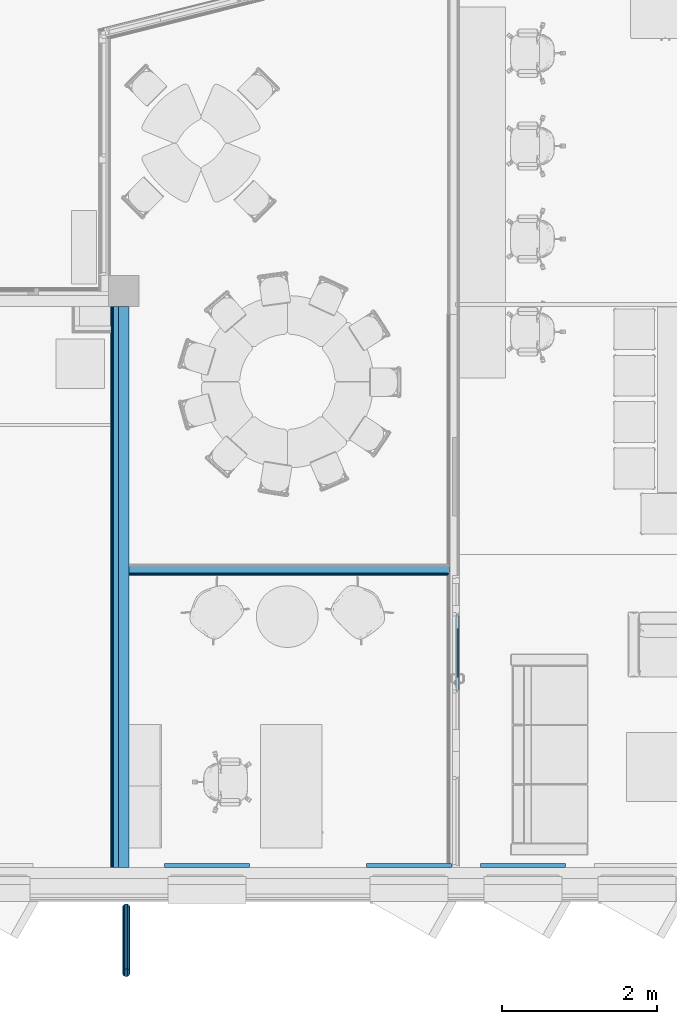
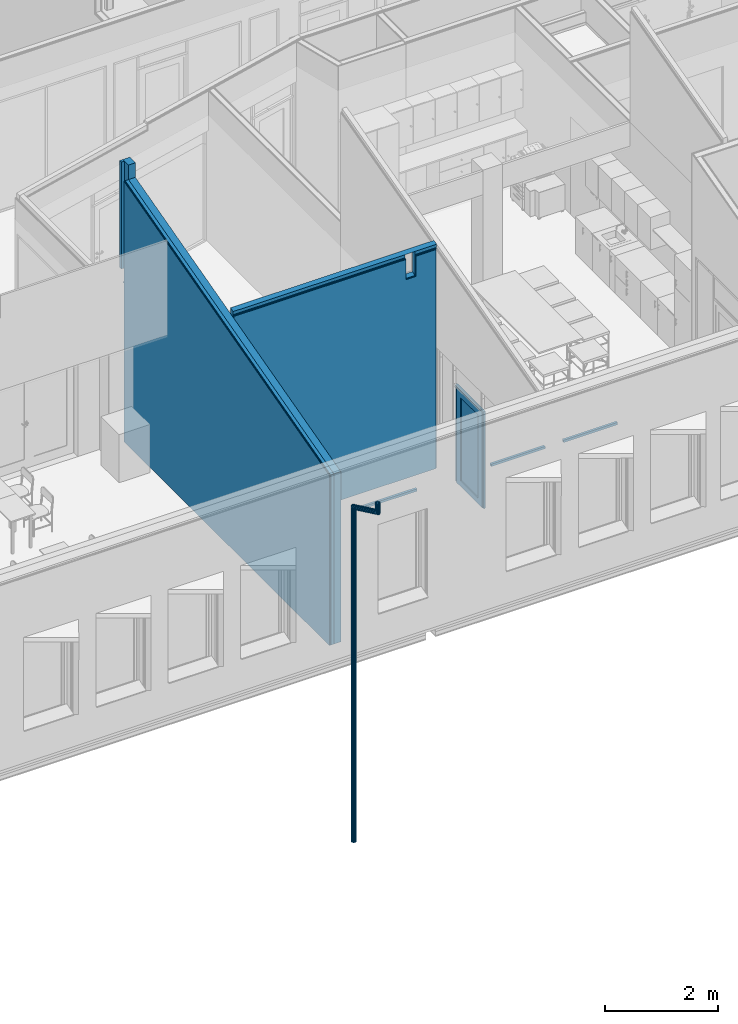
# One storey, part 67 of 153: 9 building element parts, 4 discrete accessories, 4 elements without a shape of their own.
"""IFC2X3 building model written with IfcOpenShell, lengths in millimetres."""

from ifc_helpers import new_model, entity, si_unit, converted_unit, derived_unit, money_unit, direction, frame, origin_with_axes, place, context, subcontext, project, spatial, open_shell, faceted_brep, surface_model, material, type_object, element, aggregate, save


model = new_model("IFC2X3")

# Units and contexts
model_context = context("Model", 3, precision=0.01, world=origin_with_axes(), true_north=direction((0.0, 1.0)))
body_context = subcontext(model_context, "Body", "Model", "MODEL_VIEW")
ifc_project = project(units=[si_unit("LENGTHUNIT", "METRE", prefix="MILLI"), si_unit("AREAUNIT", "SQUARE_METRE"), si_unit("VOLUMEUNIT", "CUBIC_METRE"), converted_unit("PLANEANGLEUNIT", "DEGREE", entity("IfcPlaneAngleMeasure", 0.0174532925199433), si_unit("PLANEANGLEUNIT", "RADIAN"), dimensions=[0, 0, 0, 0, 0, 0, 0]), money_unit("EUR"), converted_unit("TIMEUNIT", "Year", entity("IfcTimeMeasure", 31557600.0), si_unit("TIMEUNIT", "SECOND"), dimensions=[0, 0, 1, 0, 0, 0, 0]), si_unit("MASSUNIT", "GRAM", prefix="KILO"), si_unit("THERMODYNAMICTEMPERATUREUNIT", "DEGREE_CELSIUS"), si_unit("LUMINOUSINTENSITYUNIT", "LUMEN"), si_unit("ENERGYUNIT", "JOULE", prefix="MEGA"), derived_unit("THERMALCONDUCTANCEUNIT", [(si_unit("POWERUNIT", "WATT"), 1), (si_unit("LENGTHUNIT", "METRE"), -1), (si_unit("THERMODYNAMICTEMPERATUREUNIT", "KELVIN"), -1)]), derived_unit("SPECIFICHEATCAPACITYUNIT", [(si_unit("ENERGYUNIT", "JOULE"), 1), (si_unit("MASSUNIT", "GRAM", prefix="KILO"), -1), (si_unit("THERMODYNAMICTEMPERATUREUNIT", "KELVIN"), -1)]), derived_unit("MASSDENSITYUNIT", [(si_unit("MASSUNIT", "GRAM", prefix="KILO"), 1), (si_unit("VOLUMEUNIT", "CUBIC_METRE"), -1)])], contexts=[model_context])

# Site, building, storey
site_placement = place(None, frame((0.0, 0.0, 8650.0), z_axis=(0.0, 0.0, 1.0), x_axis=(1.0, 0.0, 0.0)))
site = spatial("IfcSite", under=ifc_project, at=site_placement, Name="43301:001:0844", CompositionType="ELEMENT")
building_placement = place(site_placement, origin_with_axes())
building = spatial("IfcBuilding", under=site, at=building_placement, Name="Kuressaare Ametikooli tuulikute mehaanikute õppekorpus", CompositionType="ELEMENT")
storey_placement = place(building_placement, frame((0.0, 0.0, 4100.0), z_axis=(0.0, 0.0, 1.0), x_axis=(1.0, 0.0, 0.0)))
storey = spatial("IfcBuildingStorey", under=building, at=storey_placement, Name="2.korrus", CompositionType="ELEMENT", Elevation=4100.0)

# Discrete accessories
ifc_material_1 = material(Name="GENEERILINE - KONSTRUKTRIOON")
discrete_accessory_type_1 = type_object("IfcDiscreteAccessoryType", Name="GENEERILINE - KONSTRUKTRIOON 50")
for number, where, z_axis, x_axis, name in (
    (1, (119093.2180880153, 9123.838490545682, 2700.0), (0.0, 0.0, 1.0), (1.0, 0.0, 0.0), "RK"),
    (2, (121702.3962682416, 9123.838490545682, 2700.0), (0.0, 0.0, 1.0), (1.0, 0.0, 0.0), "RK"),
    (3, (123177.3962682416, 9123.838490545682, 2700.0), (0.0, 0.0, 1.0), (1.0, 0.0, 0.0), "RK"),
):
    element("IfcDiscreteAccessory", number, at=place(storey_placement, frame(where, z_axis=z_axis, x_axis=x_axis)), inside=storey, type_object=discrete_accessory_type_1, material=ifc_material_1, Name=name, context=body_context, shape_type="Brep", body=[
        faceted_brep([(0.0, 0.0, 49.99999999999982), (0.0, 0.0, 0.0), (1099.999999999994, 0.0, 0.0), (1099.999999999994, 0.0, 49.99999999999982), (0.0, 50.00000000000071, 49.99999999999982), (0.0, 50.00000000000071, 0.0), (1099.999999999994, 50.00000000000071, 0.0), (1099.999999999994, 50.00000000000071, 49.99999999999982)], [[[0, 1, 2, 3]], [[4, 5, 1, 0]], [[2, 1, 5, 6]], [[3, 2, 6, 7]], [[4, 0, 3, 7]], [[7, 6, 5, 4]]]),
    ])
discrete_accessory_type_2 = type_object("IfcDiscreteAccessoryType", Name="Downspout Complex 27")
discrete_accessory_placement = place(storey_placement, frame((118599.6473949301, 8602.838490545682, -3966.646428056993), z_axis=(0.0, 0.0, 1.0), x_axis=(1.0, 0.0, 0.0)))
element("IfcDiscreteAccessory", 4, at=discrete_accessory_placement, inside=storey, type_object=discrete_accessory_type_2, Name="SV püstik", context=body_context, shape_type="SurfaceModel", body=[
    surface_model("IfcShellBasedSurfaceModel", [(50.0, 0.0, 7000.949244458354), (46.19397662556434, -19.13417161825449, 7000.949244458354), (46.19397662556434, -19.13417161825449, 0.0), (50.0, 0.0, 0.0), (35.35533905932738, -35.35533905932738, 7000.949244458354), (35.35533905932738, -35.35533905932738, 0.0), (46.19397662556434, 19.13417161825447, 7000.949244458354), (46.19397662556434, 19.13417161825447, 0.0), (19.13417161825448, -46.19397662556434, 7000.949244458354), (19.13417161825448, -46.19397662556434, 0.0), (35.35533905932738, 35.35533905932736, 7000.949244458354), (35.35533905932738, 35.35533905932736, 0.0), (0.0, -50.0, 7000.949244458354), (0.0, -50.0, 0.0), (19.13417161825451, 46.19397662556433, 7000.949244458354), (19.13417161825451, 46.19397662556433, 0.0), (-19.13417161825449, -46.19397662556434, 7000.949244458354), (-19.13417161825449, -46.19397662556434, 0.0), (0.0, 50.0, 7000.949244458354), (0.0, 50.0, 0.0), (-35.35533905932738, -35.35533905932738, 7000.949244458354), (-35.35533905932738, -35.35533905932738, 0.0), (-19.13417161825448, 46.19397662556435, 7000.949244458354), (-19.13417161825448, 46.19397662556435, 0.0), (-46.19397662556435, -19.13417161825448, 7000.949244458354), (-46.19397662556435, -19.13417161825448, 0.0), (-35.35533905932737, 35.35533905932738, 7000.949244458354), (-35.35533905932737, 35.35533905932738, 0.0), (-50.0, 0.0, 7000.949244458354), (-50.0, 0.0, 0.0), (-46.19397662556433, 19.1341716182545, 7000.949244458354), (-46.19397662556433, 19.1341716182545, 0.0)], [open_shell([[[0, 1, 2, 3]], [[1, 4, 5, 2]], [[6, 0, 3, 7]], [[4, 8, 9, 5]], [[10, 6, 7, 11]], [[8, 12, 13, 9]], [[14, 10, 11, 15]], [[12, 16, 17, 13]], [[18, 14, 15, 19]], [[16, 20, 21, 17]], [[22, 18, 19, 23]], [[20, 24, 25, 21]], [[26, 22, 23, 27]], [[24, 28, 29, 25]], [[30, 26, 27, 31]], [[28, 30, 31, 29]]])]),
    surface_model("IfcShellBasedSurfaceModel", [(-50.0, -841.6749074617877, 7800.949244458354), (-46.19397662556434, -822.5407358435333, 7800.949244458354), (-46.19397662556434, -822.5407358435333, 7613.040909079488), (-50.0, -841.6749074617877, 7600.949244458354), (-35.35533905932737, -806.3195684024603, 7800.949244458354), (-35.35533905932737, -806.3195684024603, 7623.291727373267), (-46.19397662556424, 19.13417161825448, 7213.040909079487), (-49.9999999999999, 0.0, 7200.949244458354), (-46.19397662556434, -860.8090790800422, 7800.949244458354), (-46.19397662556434, -860.8090790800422, 7588.85757983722), (-19.13417161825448, -795.4809308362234, 7800.949244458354), (-19.13417161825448, -795.4809308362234, 7630.141105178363), (-35.35533905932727, 35.35533905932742, 7223.291727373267), (-46.19397662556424, 19.13417161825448, 7000.949244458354), (-49.9999999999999, 0.0, 7000.949244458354), (-46.19397662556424, -19.13417161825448, 7188.857579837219), (-35.35533905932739, -877.030246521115, 7800.949244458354), (-35.35533905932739, -877.030246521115, 7578.60676154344), (0.0, -791.6749074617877, 7800.949244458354), (0.0, -791.6749074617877, 7632.546286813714), (-19.13417161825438, 46.19397662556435, 7230.141105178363), (-35.35533905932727, 35.35533905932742, 7000.949244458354), (-46.19397662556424, -19.13417161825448, 7000.949244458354), (-35.35533905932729, -35.35533905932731, 7178.606761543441), (-19.13417161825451, -887.8688840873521, 7800.949244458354), (-19.13417161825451, -887.8688840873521, 7571.757383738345), (19.1341716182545, -795.4809308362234, 7800.949244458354), (19.1341716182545, -795.4809308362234, 7630.141105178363), (0.0, 50.00000000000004, 7232.546286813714), (-19.13417161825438, 46.19397662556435, 7000.949244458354), (-35.35533905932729, -35.35533905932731, 7000.949244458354), (-19.13417161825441, -46.19397662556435, 7171.757383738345), (0.0, -891.6749074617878, 7800.949244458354), (0.0, -891.6749074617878, 7569.352202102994), (35.35533905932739, -806.3195684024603, 7800.949244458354), (35.35533905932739, -806.3195684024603, 7623.291727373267), (19.1341716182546, 46.19397662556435, 7230.141105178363), (0.0, 50.00000000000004, 7000.949244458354), (-19.13417161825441, -46.19397662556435, 7000.949244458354), (0.0, -50.00000000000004, 7169.352202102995), (19.13417161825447, -887.8688840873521, 7800.949244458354), (19.13417161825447, -887.8688840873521, 7571.757383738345), (46.19397662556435, -822.5407358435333, 7800.949244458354), (46.19397662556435, -822.5407358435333, 7613.040909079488), (35.35533905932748, 35.35533905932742, 7223.291727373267), (19.1341716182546, 46.19397662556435, 7000.949244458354), (0.0, -50.00000000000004, 7000.949244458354), (19.13417161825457, -46.19397662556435, 7171.757383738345), (35.35533905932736, -877.0302465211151, 7800.949244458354), (35.35533905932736, -877.0302465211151, 7578.60676154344), (50.0, -841.6749074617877, 7800.949244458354), (50.0, -841.6749074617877, 7600.949244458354), (46.19397662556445, 19.13417161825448, 7213.040909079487), (35.35533905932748, 35.35533905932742, 7000.949244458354), (19.13417161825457, -46.19397662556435, 7000.949244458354), (35.35533905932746, -35.35533905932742, 7178.606761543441), (46.19397662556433, -860.8090790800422, 7800.949244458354), (46.19397662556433, -860.8090790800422, 7588.85757983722), (50.00000000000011, 0.0, 7200.949244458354), (46.19397662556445, 19.13417161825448, 7000.949244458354), (35.35533905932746, -35.35533905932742, 7000.949244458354), (46.19397662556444, -19.13417161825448, 7188.857579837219), (50.00000000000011, 0.0, 7000.949244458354), (46.19397662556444, -19.13417161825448, 7000.949244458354)], [open_shell([[[0, 1, 2, 3]], [[1, 4, 5, 2]], [[3, 2, 6, 7]], [[8, 0, 3, 9]], [[4, 10, 11, 5]], [[2, 5, 12, 6]], [[7, 6, 13, 14]], [[9, 3, 7, 15]], [[16, 8, 9, 17]], [[10, 18, 19, 11]], [[5, 11, 20, 12]], [[6, 12, 21, 13]], [[15, 7, 14, 22]], [[17, 9, 15, 23]], [[24, 16, 17, 25]], [[18, 26, 27, 19]], [[11, 19, 28, 20]], [[12, 20, 29, 21]], [[23, 15, 22, 30]], [[25, 17, 23, 31]], [[32, 24, 25, 33]], [[26, 34, 35, 27]], [[19, 27, 36, 28]], [[20, 28, 37, 29]], [[31, 23, 30, 38]], [[33, 25, 31, 39]], [[40, 32, 33, 41]], [[34, 42, 43, 35]], [[27, 35, 44, 36]], [[28, 36, 45, 37]], [[39, 31, 38, 46]], [[41, 33, 39, 47]], [[48, 40, 41, 49]], [[42, 50, 51, 43]], [[35, 43, 52, 44]], [[36, 44, 53, 45]], [[47, 39, 46, 54]], [[49, 41, 47, 55]], [[56, 48, 49, 57]], [[50, 56, 57, 51]], [[43, 51, 58, 52]], [[44, 52, 59, 53]], [[55, 47, 54, 60]], [[57, 49, 55, 61]], [[51, 57, 61, 58]], [[52, 58, 62, 59]], [[61, 55, 60, 63]], [[58, 61, 63, 62]]])]),
])

# Curtain wall, door, building element parts
curtain_wall_type = type_object("IfcCurtainWallType", Name="Curtain Wall Type", PredefinedType="NOTDEFINED")
curtain_wall_placement = place(storey_placement, frame((122879.3962682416, 12626.24529387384, 0.0), z_axis=(0.0, 0.0, 1.0), x_axis=(1.0, 0.0, 0.0)))
curtain_wall = element("IfcCurtainWall", 5, at=curtain_wall_placement, inside=storey, type_object=curtain_wall_type, Name="PKF-3")
door_style = type_object("IfcDoorStyle", Name="990 x 2095 x 30", ConstructionType="NOTDEFINED", OperationType="SINGLE_SWING_RIGHT", ParameterTakesPrecedence=False, Sizeable=False)
door_placement = place(curtain_wall_placement, frame((0.0, -729.3572538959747, 1049.999998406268), z_axis=(0.0, 0.0, 1.0), x_axis=(0.0, 1.0, 0.0)))
door = element("IfcDoor", 6, at=door_placement, type_object=door_style, Name="PKU10,dB", OverallHeight=2080.0, OverallWidth=960.002)
aggregate(curtain_wall, [door])
ifc_material_2 = material(Name="Klaas")
building_element_part_1_placement = place(door_placement, origin_with_axes())
building_element_part_1 = element("IfcBuildingElementPart", 7, at=building_element_part_1_placement, material=ifc_material_2, Name="Klaas", context=body_context, shape_type="Brep", body=[
    faceted_brep([(-315.0008903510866, -15.00000000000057, -929.9999984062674), (-315.0008903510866, 1.000000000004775, -929.9999984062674), (315.0008821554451, 1.000000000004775, -929.9999984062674), (315.0008821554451, -15.00000000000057, -929.9999984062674), (-315.0008903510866, -15.00000000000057, 865.0000295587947), (-315.0008903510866, 1.000000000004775, 865.0000295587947), (315.0008821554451, 1.000000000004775, 865.0000295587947), (315.0008821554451, -15.00000000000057, 865.0000295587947)], [[[0, 1, 2, 3]], [[4, 5, 1, 0]], [[1, 5, 6, 2]], [[3, 2, 6, 7]], [[0, 3, 7, 4]], [[7, 6, 5, 4]]]),
])
ifc_material_3 = material(Name="Aluminium")
building_element_part_2_placement = place(door_placement, origin_with_axes())
building_element_part_2 = element("IfcBuildingElementPart", 8, at=building_element_part_2_placement, material=ifc_material_3, Name="Aluminium", context=body_context, shape_type="Brep", body=[
    faceted_brep([(455.0008821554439, -25.00000000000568, -1049.999998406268), (455.0008821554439, -25.00000000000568, 1005.000029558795), (455.0008821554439, -30.00000000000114, 1005.000029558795), (455.0008821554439, -30.00000000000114, -1049.999998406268), (410.0008821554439, -25.00000000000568, -1049.999998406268), (410.0008821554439, -25.00000000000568, 960.0000295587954), (410.0008821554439, -30.00000000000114, 960.0000295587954), (410.0008821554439, -30.00000000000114, -1049.999998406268)], [[[0, 1, 2, 3]], [[0, 4, 5, 1]], [[1, 5, 6, 2]], [[3, 2, 6, 7]], [[4, 0, 3, 7]], [[5, 4, 7, 6]]]),
    faceted_brep([(-455.0008903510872, -25.00000000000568, 1005.000029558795), (-410.0008903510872, -25.00000000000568, 960.0000295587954), (-410.0008903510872, -30.00000000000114, 960.0000295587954), (-455.0008903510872, -30.00000000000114, 1005.000029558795), (455.0008821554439, -25.00000000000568, 1005.000029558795), (410.0008821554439, -25.00000000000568, 960.0000295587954), (410.0008821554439, -30.00000000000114, 960.0000295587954), (455.0008821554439, -30.00000000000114, 1005.000029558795)], [[[0, 1, 2, 3]], [[0, 4, 5, 1]], [[1, 5, 6, 2]], [[3, 2, 6, 7]], [[4, 0, 3, 7]], [[5, 4, 7, 6]]]),
    faceted_brep([(-455.0008903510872, -25.00000000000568, -1049.999998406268), (-410.0008903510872, -25.00000000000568, -1049.999998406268), (-410.0008903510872, -30.00000000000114, -1049.999998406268), (-455.0008903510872, -30.00000000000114, -1049.999998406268), (-455.0008903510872, -25.00000000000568, 1005.000029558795), (-410.0008903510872, -25.00000000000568, 960.0000295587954), (-410.0008903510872, -30.00000000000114, 960.0000295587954), (-455.0008903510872, -30.00000000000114, 1005.000029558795)], [[[0, 1, 2, 3]], [[0, 4, 5, 1]], [[1, 5, 6, 2]], [[3, 2, 6, 7]], [[4, 0, 3, 7]], [[5, 4, 7, 6]]]),
    faceted_brep([(480.0008821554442, 10.00000000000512, -1049.999998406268), (480.0008821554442, 10.00000000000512, 1030.000029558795), (480.0008821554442, -30.00000000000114, 1030.000029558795), (480.0008821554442, -30.00000000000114, -1049.999998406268), (455.0008821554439, 10.00000000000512, -1049.999998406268), (455.0008821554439, 10.00000000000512, 1005.000029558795), (455.0008821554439, -30.00000000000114, 1005.000029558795), (455.0008821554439, -30.00000000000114, -1049.999998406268)], [[[0, 1, 2, 3]], [[0, 4, 5, 1]], [[1, 5, 6, 2]], [[3, 2, 6, 7]], [[4, 0, 3, 7]], [[5, 4, 7, 6]]]),
    faceted_brep([(-480.0008903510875, 10.00000000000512, 1030.000029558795), (-455.0008903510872, 10.00000000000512, 1005.000029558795), (-455.0008903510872, -30.00000000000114, 1005.000029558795), (-480.0008903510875, -30.00000000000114, 1030.000029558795), (480.0008821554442, 10.00000000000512, 1030.000029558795), (455.0008821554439, 10.00000000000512, 1005.000029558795), (455.0008821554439, -30.00000000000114, 1005.000029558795), (480.0008821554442, -30.00000000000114, 1030.000029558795)], [[[0, 1, 2, 3]], [[0, 4, 5, 1]], [[1, 5, 6, 2]], [[3, 2, 6, 7]], [[4, 0, 3, 7]], [[5, 4, 7, 6]]]),
    faceted_brep([(-480.0008903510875, 10.00000000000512, -1049.999998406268), (-455.0008903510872, 10.00000000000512, -1049.999998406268), (-455.0008903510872, -30.00000000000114, -1049.999998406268), (-480.0008903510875, -30.00000000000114, -1049.999998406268), (-480.0008903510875, 10.00000000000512, 1030.000029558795), (-455.0008903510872, 10.00000000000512, 1005.000029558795), (-455.0008903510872, -30.00000000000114, 1005.000029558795), (-480.0008903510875, -30.00000000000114, 1030.000029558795)], [[[0, 1, 2, 3]], [[0, 4, 5, 1]], [[1, 5, 6, 2]], [[3, 2, 6, 7]], [[4, 0, 3, 7]], [[5, 4, 7, 6]]]),
    faceted_brep([(455.0008821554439, 25.00000000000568, -1049.999998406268), (455.0008821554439, 25.00000000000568, 1005.000029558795), (455.0008821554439, -25.00000000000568, 1005.000029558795), (455.0008821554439, -25.00000000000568, -1049.999998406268), (435.0008821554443, 25.00000000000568, -1049.999998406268), (435.0008821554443, 25.00000000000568, 985.0000295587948), (435.0008821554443, -25.00000000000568, 985.0000295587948), (435.0008821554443, -25.00000000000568, -1049.999998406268)], [[[0, 1, 2, 3]], [[0, 4, 5, 1]], [[1, 5, 6, 2]], [[3, 2, 6, 7]], [[4, 0, 3, 7]], [[5, 4, 7, 6]]]),
    faceted_brep([(-455.0008903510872, 25.00000000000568, 1005.000029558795), (-435.0008903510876, 25.00000000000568, 985.0000295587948), (-435.0008903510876, -25.00000000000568, 985.0000295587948), (-455.0008903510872, -25.00000000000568, 1005.000029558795), (455.0008821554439, 25.00000000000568, 1005.000029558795), (435.0008821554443, 25.00000000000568, 985.0000295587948), (435.0008821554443, -25.00000000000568, 985.0000295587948), (455.0008821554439, -25.00000000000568, 1005.000029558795)], [[[0, 1, 2, 3]], [[0, 4, 5, 1]], [[1, 5, 6, 2]], [[3, 2, 6, 7]], [[4, 0, 3, 7]], [[5, 4, 7, 6]]]),
    faceted_brep([(-455.0008903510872, 25.00000000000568, -1049.999998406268), (-435.0008903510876, 25.00000000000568, -1049.999998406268), (-435.0008903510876, -25.00000000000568, -1049.999998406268), (-455.0008903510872, -25.00000000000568, -1049.999998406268), (-455.0008903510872, 25.00000000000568, 1005.000029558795), (-435.0008903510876, 25.00000000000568, 985.0000295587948), (-435.0008903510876, -25.00000000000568, 985.0000295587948), (-455.0008903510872, -25.00000000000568, 1005.000029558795)], [[[0, 1, 2, 3]], [[0, 4, 5, 1]], [[1, 5, 6, 2]], [[3, 2, 6, 7]], [[4, 0, 3, 7]], [[5, 4, 7, 6]]]),
    faceted_brep([(495.000895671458, 15.00000000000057, -1049.999998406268), (495.000895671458, 15.00000000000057, 1045.00001178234), (495.000895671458, -15.00000000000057, 1045.00001178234), (495.000895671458, -15.00000000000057, -1049.999998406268), (480.0008821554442, 15.00000000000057, -1049.999998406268), (480.0008821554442, 15.00000000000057, 1030.000029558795), (480.0008821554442, -15.00000000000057, 1030.000029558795), (480.0008821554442, -15.00000000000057, -1049.999998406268)], [[[0, 1, 2, 3]], [[0, 4, 5, 1]], [[1, 5, 6, 2]], [[3, 2, 6, 7]], [[4, 0, 3, 7]], [[5, 4, 7, 6]]]),
    faceted_brep([(495.000895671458, 15.00000000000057, 1045.00001178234), (-495.0008725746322, 15.00000000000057, 1045.00001178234), (-495.0008725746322, -15.00000000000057, 1045.00001178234), (495.000895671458, -15.00000000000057, 1045.00001178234), (480.0008821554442, 15.00000000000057, 1030.000029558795), (-480.0008903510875, 15.00000000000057, 1030.000029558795), (-480.0008903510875, -15.00000000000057, 1030.000029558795), (480.0008821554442, -15.00000000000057, 1030.000029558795)], [[[0, 1, 2, 3]], [[0, 4, 5, 1]], [[1, 5, 6, 2]], [[3, 2, 6, 7]], [[4, 0, 3, 7]], [[5, 4, 7, 6]]]),
    faceted_brep([(-495.0008725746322, 15.00000000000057, 1045.00001178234), (-495.0008725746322, 15.00000000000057, -1049.999998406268), (-495.0008725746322, -15.00000000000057, -1049.999998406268), (-495.0008725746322, -15.00000000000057, 1045.00001178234), (-480.0008903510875, 15.00000000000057, 1030.000029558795), (-480.0008903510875, 15.00000000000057, -1049.999998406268), (-480.0008903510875, -15.00000000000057, -1049.999998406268), (-480.0008903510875, -15.00000000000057, 1030.000029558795)], [[[0, 1, 2, 3]], [[0, 4, 5, 1]], [[1, 5, 6, 2]], [[3, 2, 6, 7]], [[4, 0, 3, 7]], [[5, 4, 7, 6]]]),
    faceted_brep([(-315.0008903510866, -25.00000000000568, -929.9999984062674), (-315.0008903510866, 25.00000000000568, -929.9999984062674), (-315.0008903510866, 25.00000000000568, 865.0000295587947), (-315.0008903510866, -25.00000000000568, 865.0000295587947), (-435.0008903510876, -25.00000000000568, -1049.999998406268), (-435.0008903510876, 25.00000000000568, -1049.999998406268), (-435.0008903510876, 25.00000000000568, 985.0000295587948), (-435.0008903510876, -25.00000000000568, 985.0000295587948)], [[[0, 1, 2, 3]], [[4, 5, 1, 0]], [[1, 5, 6, 2]], [[3, 2, 6, 7]], [[0, 3, 7, 4]], [[7, 6, 5, 4]]]),
    faceted_brep([(435.0008821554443, -25.00000000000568, -1049.999998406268), (435.0008821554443, 25.00000000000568, -1049.999998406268), (435.0008821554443, 25.00000000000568, 985.0000295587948), (435.0008821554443, -25.00000000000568, 985.0000295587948), (315.0008821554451, -25.00000000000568, -929.9999984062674), (315.0008821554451, 25.00000000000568, -929.9999984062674), (315.0008821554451, 25.00000000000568, 865.0000295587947), (315.0008821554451, -25.00000000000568, 865.0000295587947)], [[[0, 1, 2, 3]], [[4, 5, 1, 0]], [[1, 5, 6, 2]], [[3, 2, 6, 7]], [[0, 3, 7, 4]], [[7, 6, 5, 4]]]),
    faceted_brep([(435.0008821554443, -25.00000000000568, -1049.999998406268), (435.0008821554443, 25.00000000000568, -1049.999998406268), (315.0008821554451, 25.00000000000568, -929.9999984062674), (315.0008821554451, -25.00000000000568, -929.9999984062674), (-435.0008903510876, -25.00000000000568, -1049.999998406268), (-435.0008903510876, 25.00000000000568, -1049.999998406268), (-315.0008903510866, 25.00000000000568, -929.9999984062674), (-315.0008903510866, -25.00000000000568, -929.9999984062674)], [[[0, 1, 2, 3]], [[4, 5, 1, 0]], [[1, 5, 6, 2]], [[3, 2, 6, 7]], [[0, 3, 7, 4]], [[7, 6, 5, 4]]]),
    faceted_brep([(-435.0008903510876, -25.00000000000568, 985.0000295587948), (-435.0008903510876, 25.00000000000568, 985.0000295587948), (-315.0008903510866, 25.00000000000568, 865.0000295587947), (-315.0008903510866, -25.00000000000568, 865.0000295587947), (435.0008821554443, -25.00000000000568, 985.0000295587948), (435.0008821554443, 25.00000000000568, 985.0000295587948), (315.0008821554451, 25.00000000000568, 865.0000295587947), (315.0008821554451, -25.00000000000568, 865.0000295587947)], [[[0, 1, 2, 3]], [[4, 5, 1, 0]], [[1, 5, 6, 2]], [[3, 2, 6, 7]], [[0, 3, 7, 4]], [[7, 6, 5, 4]]]),
])
aggregate(door, [building_element_part_1, building_element_part_2])

# Wall, building element parts
wall_type_1 = type_object("IfcWallType", Name="SS-2.2 147", PredefinedType="NOTDEFINED")
wall_1_placement = place(storey_placement, frame((122757.3962682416, 12897.93578488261, 0.0), z_axis=(0.0, 0.0, 1.0), x_axis=(-1.0, 0.0, 0.0)))
wall_1 = element("IfcWall", 9, at=wall_1_placement, inside=storey, type_object=wall_type_1, Name="Sisesein")
ifc_material_4 = material(Name="Kipsplaat")
building_element_part_3_placement = place(wall_1_placement, origin_with_axes())
building_element_part_3 = element("IfcBuildingElementPart", 10, at=building_element_part_3_placement, material=ifc_material_4, Name="Kipsplaat", context=body_context, shape_type="Brep", body=[
    faceted_brep([(414.4496967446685, -25.9999999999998, 4739.971441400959), (-13.00000000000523, -25.9999999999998, 4739.971426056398), (-13.00000000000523, -25.9999999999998, 0.0), (4119.449624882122, -25.9999999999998, 0.0), (4119.449624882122, -25.9999999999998, 4739.971574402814), (614.4496967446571, -25.9999999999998, 4739.971448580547), (614.4496967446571, -25.9999999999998, 4289.216205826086), (414.4496967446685, -25.9999999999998, 4289.216205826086), (-13.00000000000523, -12.9999999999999, 4736.488086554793), (414.4496967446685, -12.9999999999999, 4736.488101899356), (-13.00000000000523, -12.9999999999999, 0.0), (4119.449624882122, -12.9999999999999, 0.0), (4119.449624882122, -12.9999999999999, 4736.48823490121), (614.4496967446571, -12.9999999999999, 4736.488109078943), (614.4496967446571, -12.9999999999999, 4285.732867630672), (414.4496967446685, -12.9999999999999, 4285.732867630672)], [[[0, 1, 2, 3, 4, 5, 6, 7]], [[8, 1, 0, 9]], [[1, 8, 10, 2]], [[10, 11, 3, 2]], [[12, 4, 3, 11]], [[13, 5, 4, 12]], [[5, 13, 14, 6]], [[15, 7, 6, 14]], [[9, 0, 7, 15]], [[8, 9, 15, 14, 13, 12, 11, 10]]]),
])
building_element_part_4_placement = place(wall_1_placement, origin_with_axes())
building_element_part_4 = element("IfcBuildingElementPart", 11, at=building_element_part_4_placement, material=ifc_material_4, Name="Kipsplaat", context=body_context, shape_type="Brep", body=[
    faceted_brep([(414.4496967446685, -12.9999999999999, 4720.958959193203), (0.0, -12.9999999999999, 4720.958944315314), (0.0, -12.9999999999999, 0.0), (4119.449624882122, -12.9999999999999, 0.0), (4119.449624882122, -12.9999999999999, 4720.959092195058), (614.4496967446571, -12.9999999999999, 4720.958966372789), (614.4496967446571, -12.9999999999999, 4285.732867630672), (414.4496967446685, -12.9999999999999, 4285.732867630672), (0.0, 0.0, 4717.475604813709), (414.4496967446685, 0.0, 4717.475619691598), (0.0, 0.0, 0.0), (4119.449624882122, 0.0, 0.0), (4119.449624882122, 0.0, 4717.475752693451), (614.4496967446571, 0.0, 4717.475626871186), (614.4496967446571, 0.0, 4282.249529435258), (414.4496967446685, 0.0, 4282.249529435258)], [[[0, 1, 2, 3, 4, 5, 6, 7]], [[8, 1, 0, 9]], [[1, 8, 10, 2]], [[10, 11, 3, 2]], [[12, 4, 3, 11]], [[13, 5, 4, 12]], [[5, 13, 14, 6]], [[15, 7, 6, 14]], [[9, 0, 7, 15]], [[8, 9, 15, 14, 13, 12, 11, 10]]]),
])
ifc_material_5 = material(Name="Soojustus - Mineraalvill pehme")
building_element_part_5_placement = place(wall_1_placement, origin_with_axes())
building_element_part_5 = element("IfcBuildingElementPart", 12, at=building_element_part_5_placement, material=ifc_material_5, Name="Soojustus - Mineraalvill pehme", context=body_context, shape_type="Brep", body=[
    faceted_brep([(4119.449624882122, -121.0000000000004, 4832.719699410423), (-25.99999999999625, -121.0000000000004, 4832.719550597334), (-25.99999999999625, -121.0000000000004, 0.0), (4119.449624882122, -121.0000000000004, 0.0), (614.4496967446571, -121.0000000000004, 4832.309446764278), (614.4496967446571, -121.0000000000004, 4314.671369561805), (414.4496967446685, -121.0000000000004, 4314.671369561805), (414.4496967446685, -121.0000000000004, 4832.309446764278), (-25.99999999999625, -25.9999999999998, 4807.264377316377), (4119.449624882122, -25.9999999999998, 4807.264526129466), (-25.99999999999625, -25.9999999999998, 0.0), (4119.449624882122, -25.9999999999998, 0.0), (614.4496967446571, -25.9999999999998, 4289.216205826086), (614.4496967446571, -25.9999999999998, 4806.854283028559), (414.4496967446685, -25.9999999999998, 4289.216205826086), (414.4496967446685, -25.9999999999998, 4806.854283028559)], [[[0, 1, 2, 3], [4, 5, 6, 7]], [[8, 1, 0, 9]], [[1, 8, 10, 2]], [[10, 11, 3, 2]], [[9, 0, 3, 11]], [[12, 5, 4, 13]], [[14, 6, 5, 12]], [[15, 7, 6, 14]], [[13, 4, 7, 15]], [[8, 9, 11, 10], [14, 12, 13, 15]]]),
])
aggregate(wall_1, [building_element_part_3, building_element_part_4, building_element_part_5])

wall_type_2 = type_object("IfcWallType", Name="SS-2.5 236", PredefinedType="NOTDEFINED")
wall_2_placement = place(storey_placement, frame((118637.9466433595, 9123.835076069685, 0.0), z_axis=(0.0, 0.0, 1.0), x_axis=(0.0, 1.0, 0.0)))
wall_2 = element("IfcWall", 13, at=wall_2_placement, inside=storey, type_object=wall_type_2, Name="Sisesein")
building_element_part_6_placement = place(wall_2_placement, origin_with_axes())
building_element_part_6 = element("IfcBuildingElementPart", 14, at=building_element_part_6_placement, material=ifc_material_4, Name="Kipsplaat", context=body_context, shape_type="Brep", body=[
    faceted_brep([(7250.203281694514, 235.9999999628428, 5607.483591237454), (7250.203264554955, 221.0000000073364, 5607.483586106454), (7250.211798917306, 221.0000000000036, 0.0), (7250.211798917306, 236.0000000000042, 0.0), (0.005263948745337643, 220.999999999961, 3664.798886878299), (0.005263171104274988, 235.9999983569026, 3664.798887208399), (0.003414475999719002, 221.0000000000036, 0.0), (0.003414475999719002, 236.0000000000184, 0.0)], [[[0, 1, 2, 3]], [[4, 1, 0, 5]], [[1, 4, 6, 2]], [[3, 2, 6, 7]], [[5, 0, 3, 7]], [[4, 5, 7, 6]]]),
])
building_element_part_7_placement = place(wall_2_placement, origin_with_axes())
building_element_part_7 = element("IfcBuildingElementPart", 15, at=building_element_part_7_placement, material=ifc_material_4, Name="Kipsplaat", context=body_context, shape_type="Brep", body=[
    faceted_brep([(7250.203264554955, 221.0000000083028, 5607.483586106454), (7250.203247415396, 206.0000000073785, 5607.483580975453), (7250.211798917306, 206.0000000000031, 0.0), (7250.211798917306, 221.0000000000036, 0.0), (0.005264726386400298, 205.9999999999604, 3664.798886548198), (0.005263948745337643, 220.9999999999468, 3664.798886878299), (0.003414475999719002, 206.0000000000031, 0.0), (0.003414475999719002, 221.0000000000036, 0.0)], [[[0, 1, 2, 3]], [[4, 1, 0, 5]], [[1, 4, 6, 2]], [[3, 2, 6, 7]], [[5, 0, 3, 7]], [[4, 5, 7, 6]]]),
])
building_element_part_8_placement = place(wall_2_placement, origin_with_axes())
building_element_part_8 = element("IfcBuildingElementPart", 16, at=building_element_part_8_placement, material=ifc_material_5, Name="Soojustus - Mineraalvill pehme", context=body_context, shape_type="Brep", body=[
    faceted_brep([(7250.203247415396, 206.0000000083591, 5607.483580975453), (7250.203172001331, 140.0000000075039, 5607.483558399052), (7250.211798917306, 140.0000000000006, 0.0), (7250.211798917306, 206.0000000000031, 0.0), (0.005268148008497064, 139.9999999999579, 3664.798885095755), (0.005264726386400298, 205.999999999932, 3664.798886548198), (0.003414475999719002, 140.0000000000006, 0.0), (0.003414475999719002, 206.0000000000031, 0.0)], [[[0, 1, 2, 3]], [[4, 1, 0, 5]], [[1, 4, 6, 2]], [[3, 2, 6, 7]], [[5, 0, 3, 7]], [[4, 5, 7, 6]]]),
    faceted_brep([(7450.211798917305, 140.0000000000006, 5920.50751842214), (7390.211102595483, 140.0000000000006, 5920.50751842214), (7390.211102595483, 140.0000000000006, 3619.999999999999), (7450.211798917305, 140.0000000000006, 3619.999999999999), (7450.211798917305, 206.0000000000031, 5920.50751842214), (7390.211093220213, 206.0000000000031, 5920.50751842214), (7390.211093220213, 206.0000000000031, 3619.999999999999), (7450.211798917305, 206.0000000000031, 3619.999999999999)], [[[0, 1, 2, 3]], [[1, 0, 4, 5]], [[1, 5, 6, 2]], [[2, 6, 7, 3]], [[4, 0, 3, 7]], [[5, 4, 7, 6]]]),
])
ifc_material_6 = material(Name="Puit - CLT")
building_element_part_9_placement = place(wall_2_placement, origin_with_axes())
building_element_part_9 = element("IfcBuildingElementPart", 17, at=building_element_part_9_placement, material=ifc_material_6, Name="Puit - CLT", context=body_context, shape_type="Brep", body=[
    faceted_brep([(7250.203172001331, 140.0000000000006, 5920.50751842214), (7450.211798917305, 140.0000000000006, 5920.50751842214), (7450.211798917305, 140.0000000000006, 3589.999999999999), (7250.211798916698, 140.0000000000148, 3589.999999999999), (7250.211798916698, 140.0000000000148, 3289.999999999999), (7450.211798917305, 140.0000000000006, 3289.999999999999), (7450.211798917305, 140.0000000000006, 3280.0), (7250.211798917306, 140.0000000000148, 3280.0), (7250.211798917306, 140.0000000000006, 0.0), (0.003414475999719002, 140.0000000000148, 0.0), (0.005268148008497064, 139.9999999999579, 3664.798885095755), (7250.203172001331, 140.0000000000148, 5607.483558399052), (7250.203012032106, 0.0, 5920.50751842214), (7450.211798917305, 0.0, 5920.50751842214), (7450.211798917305, 0.0, 3590.0), (7250.211798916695, 0.0, 3589.999999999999), (7250.211798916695, 0.0, 3289.999999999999), (7450.211798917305, 0.0, 3289.999999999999), (7450.211798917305, 0.0, 3280.0), (7250.211798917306, 0.0, 3280.0), (7250.211798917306, 0.0, 0.0), (0.003414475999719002, 0.0, 0.0), (0.005275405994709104, 0.0, 3664.798882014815), (3921.100708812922, 0.0, 4715.453236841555), (7250.203012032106, 0.0, 5607.483510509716), (3774.10070881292, 0.0, 4676.064705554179)], [[[0, 1, 2, 3, 4, 5, 6, 7, 8, 9, 10, 11]], [[0, 12, 13, 1]], [[13, 14, 2, 1]], [[3, 2, 14, 15]], [[3, 15, 16, 4]], [[4, 16, 17, 5]], [[18, 6, 5, 17]], [[6, 18, 19, 7]], [[19, 20, 8, 7]], [[8, 20, 21, 9]], [[22, 10, 9, 21]], [[23, 24, 11, 10, 22, 25]], [[24, 12, 0, 11]], [[12, 24, 23, 25, 22, 21, 20, 19, 18, 17, 16, 15, 14, 13]]]),
])
aggregate(wall_2, [building_element_part_6, building_element_part_7, building_element_part_8, building_element_part_9])

save(model, "model.ifc")
